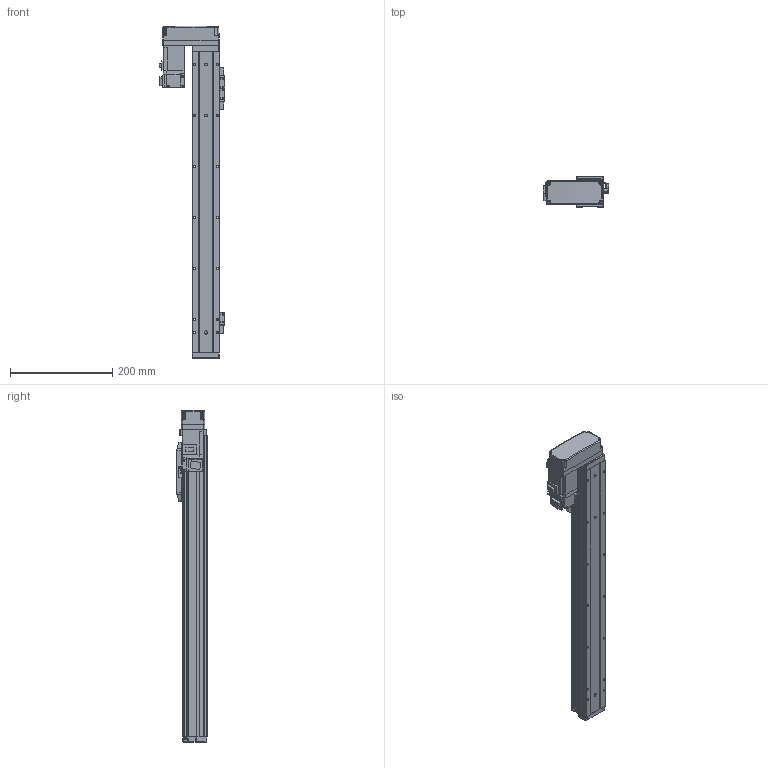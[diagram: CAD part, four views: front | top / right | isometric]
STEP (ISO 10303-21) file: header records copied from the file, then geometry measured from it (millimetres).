
FILE_DESCRIPTION (( 'STEP AP214' ), '1' );
FILE_NAME ('N_GRH5-450-BR-M10.step', '2025-03-14T10:58:06', ( '' ), ( '' ), 'SwSTEP 2.0', 'SolidWorks 2016', '' );
FILE_SCHEMA (( 'AUTOMOTIVE_DESIGN' ));
Length unit declared in the file: millimetre
Products named in the file (5): N_GRH5-GY-011^N_GRH5-450-BR-M10; HF-KP13_100W_Motor^N_GRH5-450-BR-M10; N_GRH5-450-BR-M10; N_GRH5-BL-008^N_GRH5-450-BR-M10; N_GRH5-GY-004^N_GRH5-450-BR-M10
Assembly tree (4 placements, depth 2):
  N_GRH5-450-BR-M10
    N_GRH5-GY-011^N_GRH5-450-BR-M10
    N_GRH5-GY-004^N_GRH5-450-BR-M10
    HF-KP13_100W_Motor^N_GRH5-450-BR-M10
    N_GRH5-BL-008^N_GRH5-450-BR-M10
Bounding box: 128.85 x 60 x 650.5 mm (x, y, z)
Volume: 1312570.5 mm3; surface area: 326396.8 mm2
Topology: 4 solids, 5 shells, 954 faces, 2432 edges, 1541 vertices
Faces by surface type: plane 551, cylinder 328, cone 50, bspline 15, sphere 10
Entity records: 36291 total; most frequent: CARTESIAN_POINT 5693, DIRECTION 4925, ORIENTED_EDGE 4800, EDGE_CURVE 2400, LINE 1651, VECTOR 1651, AXIS2_PLACEMENT_3D 1637, VERTEX_POINT 1539
